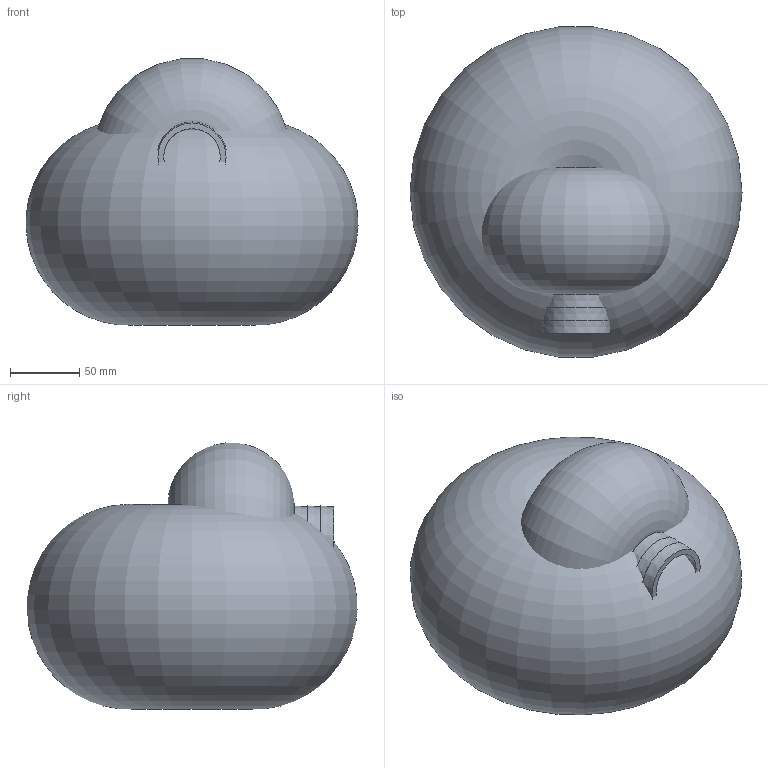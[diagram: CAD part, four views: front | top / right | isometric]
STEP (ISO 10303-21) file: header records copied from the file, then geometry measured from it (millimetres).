
FILE_DESCRIPTION(/* description */ ('Alibre Inc.'),/* implementation_level */ '2;1');
FILE_NAME(/* name */ 'export0',/* time_stamp */ '2016-11-30T09:41:38-05:00',/* author */ (''),/* organization */ (''),/* preprocessor_version */ 'ST-DEVELOPER v14',/* originating_system */ 'Alibre',/* authorisation */ '');
FILE_SCHEMA (('CONFIG_CONTROL_DESIGN'));
Length unit declared in the file: centimetre
Products named in the file (1): ID_1
Bounding box: 240.1 x 238.78 x 192.6 mm (x, y, z)
Volume: 5900505.7 mm3; surface area: 274805.3 mm2
Topology: 1 solids, 1 shells, 35 faces, 79 edges, 52 vertices
Faces by surface type: cone 12, plane 9, torus 5, cylinder 5, bspline 4
Full cylindrical faces by diameter (mm): 56.633 x2, 56.642 x2
Entity records: 12911 total; most frequent: CARTESIAN_POINT 12218, ORIENTED_EDGE 108, DIRECTION 99, EDGE_LOOP 59, FACE_BOUND 59, AXIS2_PLACEMENT_3D 55, EDGE_CURVE 54, VERTEX_POINT 43
